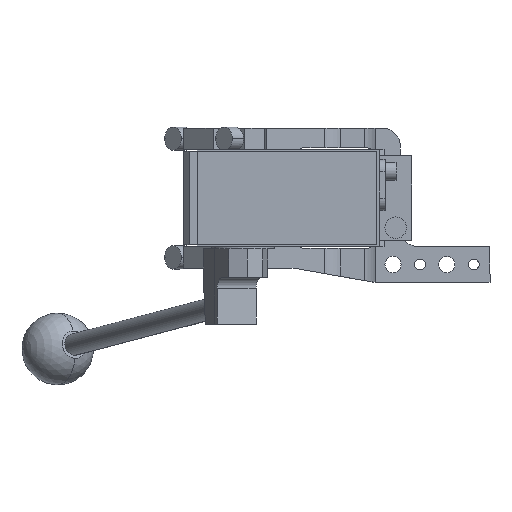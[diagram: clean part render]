
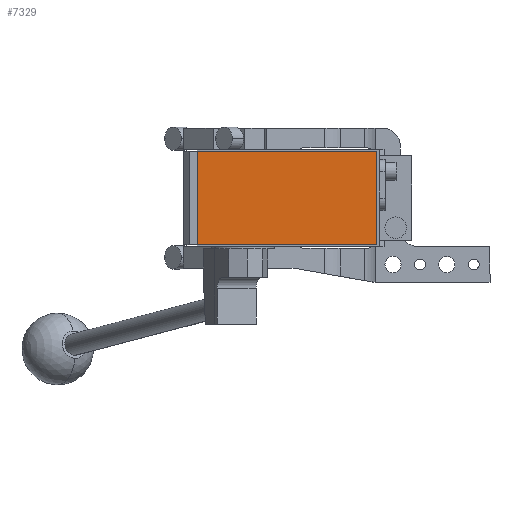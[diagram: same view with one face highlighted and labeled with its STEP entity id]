
A CAD part, front view. The second image highlights one B-rep face of the part: STEP entity #7329.
In plain terms, the highlighted planar face has unit normal (0, -1, 0).
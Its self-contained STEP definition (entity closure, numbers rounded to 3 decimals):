
#431 = CARTESIAN_POINT ( 'NONE',  ( -19., -286.5, -26. ) ) ;
#710 = EDGE_CURVE ( 'NONE', #1018, #7882, #13311, .T. ) ;
#874 = ORIENTED_EDGE ( 'NONE', *, *, #6308, .T. ) ;
#1018 = VERTEX_POINT ( 'NONE', #12978 ) ;
#1589 = CARTESIAN_POINT ( 'NONE',  ( -19., -286.5, 26. ) ) ;
#1746 = DIRECTION ( 'NONE',  ( 1., 0., 0. ) ) ;
#1880 = VECTOR ( 'NONE', #1890, 1000. ) ;
#1890 = DIRECTION ( 'NONE',  ( -1., 0., 0. ) ) ;
#2901 = PLANE ( 'NONE',  #9349 ) ;
#3760 = VECTOR ( 'NONE', #6101, 1000. ) ;
#4024 = EDGE_CURVE ( 'NONE', #7882, #14489, #12026, .T. ) ;
#4523 = ORIENTED_EDGE ( 'NONE', *, *, #710, .T. ) ;
#5122 = VERTEX_POINT ( 'NONE', #431 ) ;
#5124 = FACE_OUTER_BOUND ( 'NONE', #7492, .T. ) ;
#6101 = DIRECTION ( 'NONE',  ( 0., 0., 1. ) ) ;
#6105 = ORIENTED_EDGE ( 'NONE', *, *, #13858, .T. ) ;
#6170 = LINE ( 'NONE', #10883, #13124 ) ;
#6308 = EDGE_CURVE ( 'NONE', #14489, #5122, #10845, .T. ) ;
#7329 = ADVANCED_FACE ( 'NONE', ( #5124 ), #2901, .T. ) ;
#7427 = CARTESIAN_POINT ( 'NONE',  ( -19., -286.5, 26. ) ) ;
#7492 = EDGE_LOOP ( 'NONE', ( #874, #6105, #4523, #14121 ) ) ;
#7559 = DIRECTION ( 'NONE',  ( 0., -1., 0. ) ) ;
#7882 = VERTEX_POINT ( 'NONE', #9624 ) ;
#9349 = AXIS2_PLACEMENT_3D ( 'NONE', #13243, #7559, #12180 ) ;
#9624 = CARTESIAN_POINT ( 'NONE',  ( 81., -286.5, 26. ) ) ;
#10165 = VECTOR ( 'NONE', #13433, 1000. ) ;
#10845 = LINE ( 'NONE', #7427, #10165 ) ;
#10883 = CARTESIAN_POINT ( 'NONE',  ( -19., -286.5, -26. ) ) ;
#11869 = CARTESIAN_POINT ( 'NONE',  ( 81., -286.5, 26. ) ) ;
#12026 = LINE ( 'NONE', #1589, #1880 ) ;
#12180 = DIRECTION ( 'NONE',  ( 0., 0., -1. ) ) ;
#12487 = CARTESIAN_POINT ( 'NONE',  ( -19., -286.5, 26. ) ) ;
#12978 = CARTESIAN_POINT ( 'NONE',  ( 81., -286.5, -26. ) ) ;
#13124 = VECTOR ( 'NONE', #1746, 1000. ) ;
#13243 = CARTESIAN_POINT ( 'NONE',  ( 0., -286.5, 0. ) ) ;
#13311 = LINE ( 'NONE', #11869, #3760 ) ;
#13433 = DIRECTION ( 'NONE',  ( 0., 0., -1. ) ) ;
#13858 = EDGE_CURVE ( 'NONE', #5122, #1018, #6170, .T. ) ;
#14121 = ORIENTED_EDGE ( 'NONE', *, *, #4024, .T. ) ;
#14489 = VERTEX_POINT ( 'NONE', #12487 ) ;
